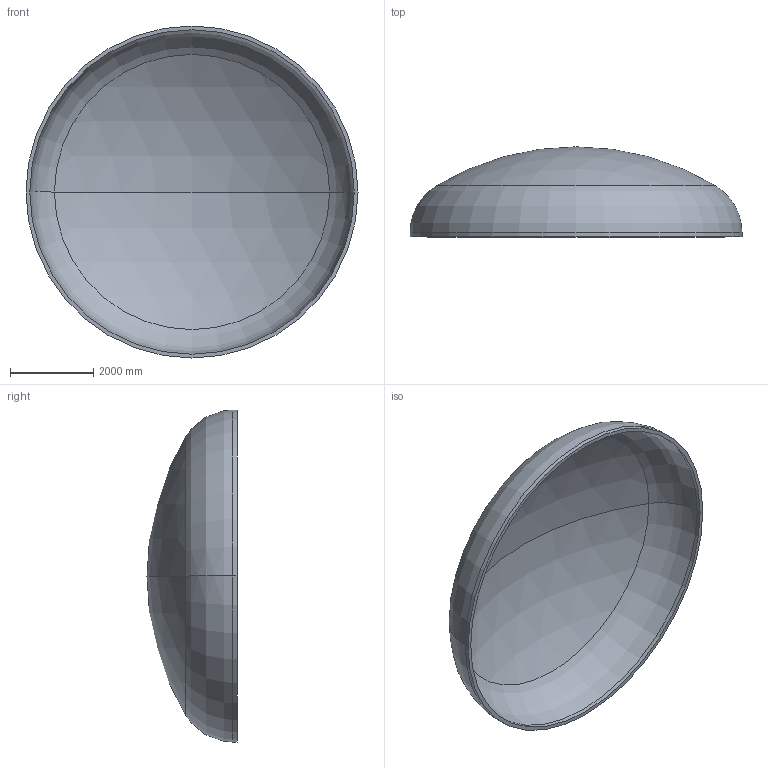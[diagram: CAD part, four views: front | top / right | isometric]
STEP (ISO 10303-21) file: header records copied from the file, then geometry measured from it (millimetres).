
FILE_DESCRIPTION (( 'STEP AP203' ), '1' );
FILE_NAME ('DIN 28013 Korbbogenform_-_Boden DIN 28013 - 8000 x 100 - I - s=92.step', '2016-07-04T11:04:41', ( '' ), ( '' ), 'SwSTEP 2.0', 'SolidWorks 2013', '' );
FILE_SCHEMA (( 'CONFIG_CONTROL_DESIGN' ));
Length unit declared in the file: millimetre
Products named in the file (1): DIN 28013 Korbbogenform_-_Boden DIN 28013 - 8000 x 100 - I - s=92
Bounding box: 8000 x 2169.65 x 8000 mm (x, y, z)
Volume: 6534653476 mm3; surface area: 144360977.9 mm2
Topology: 1 solids, 1 shells, 13 faces, 24 edges, 14 vertices
Faces by surface type: torus 4, cylinder 4, sphere 4, plane 1
Entity records: 407 total; most frequent: DIRECTION 72, CARTESIAN_POINT 52, ORIENTED_EDGE 48, AXIS2_PLACEMENT_3D 34, EDGE_CURVE 24, CIRCLE 20, EDGE_LOOP 14, VERTEX_POINT 14
